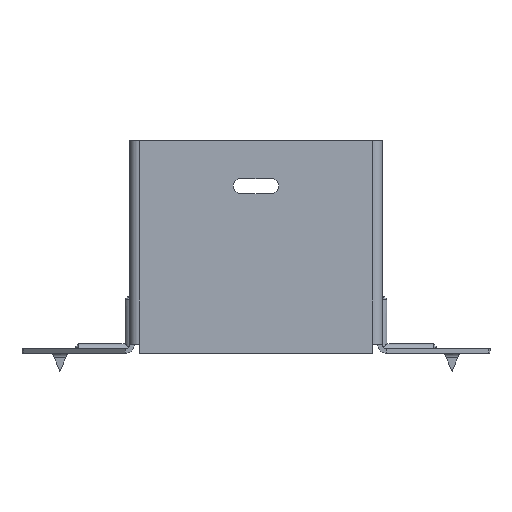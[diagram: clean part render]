
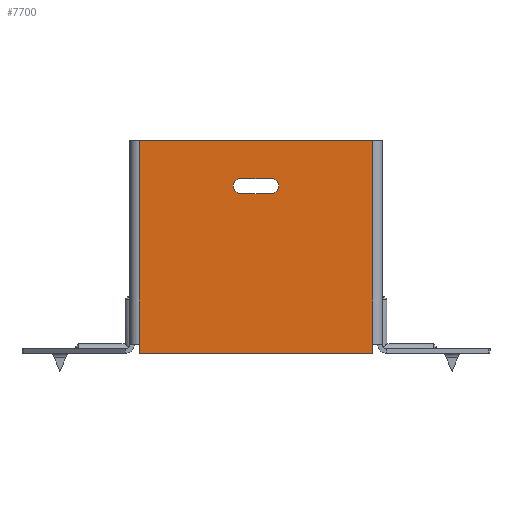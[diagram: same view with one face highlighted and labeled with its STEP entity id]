
A CAD part, front view. The second image highlights one B-rep face of the part: STEP entity #7700.
In plain terms, the highlighted planar face has unit normal (0, -1, 0).
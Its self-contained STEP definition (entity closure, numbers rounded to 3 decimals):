
#164 = CARTESIAN_POINT ( 'NONE',  ( 38.5, 0., -67. ) ) ;
#474 = AXIS2_PLACEMENT_3D ( 'NONE', #9347, #7338, #9395 ) ;
#503 = VECTOR ( 'NONE', #11735, 1000. ) ;
#679 = DIRECTION ( 'NONE',  ( 0., 0., 1. ) ) ;
#837 = VERTEX_POINT ( 'NONE', #4716 ) ;
#1063 = VERTEX_POINT ( 'NONE', #164 ) ;
#1389 = CARTESIAN_POINT ( 'NONE',  ( -38.5, 0., 0. ) ) ;
#1441 = FACE_OUTER_BOUND ( 'NONE', #4041, .T. ) ;
#1606 = LINE ( 'NONE', #7204, #8456 ) ;
#1619 = CARTESIAN_POINT ( 'NONE',  ( 38.5, 0., -70. ) ) ;
#1640 = VECTOR ( 'NONE', #1731, 1000. ) ;
#1731 = DIRECTION ( 'NONE',  ( 0., 0., -1. ) ) ;
#2017 = DIRECTION ( 'NONE',  ( 0., 0., -1. ) ) ;
#2109 = VERTEX_POINT ( 'NONE', #10915 ) ;
#2426 = DIRECTION ( 'NONE',  ( 0., 0., 1. ) ) ;
#2474 = CARTESIAN_POINT ( 'NONE',  ( -40., 0., 0. ) ) ;
#2738 = CARTESIAN_POINT ( 'NONE',  ( 38.5, 0., 0. ) ) ;
#2800 = CARTESIAN_POINT ( 'NONE',  ( 0., 0., 0. ) ) ;
#2891 = EDGE_CURVE ( 'NONE', #2109, #5733, #7853, .T. ) ;
#2902 = EDGE_CURVE ( 'NONE', #6639, #4940, #12967, .T. ) ;
#3086 = ORIENTED_EDGE ( 'NONE', *, *, #5403, .T. ) ;
#3413 = ORIENTED_EDGE ( 'NONE', *, *, #9475, .T. ) ;
#3447 = DIRECTION ( 'NONE',  ( 0., 1., 0. ) ) ;
#3527 = LINE ( 'NONE', #10897, #10387 ) ;
#4041 = EDGE_LOOP ( 'NONE', ( #5992, #3413, #11366, #12289, #5726, #8482 ) ) ;
#4084 = DIRECTION ( 'NONE',  ( 0., 0., 1. ) ) ;
#4421 = VECTOR ( 'NONE', #9502, 1000. ) ;
#4456 = VERTEX_POINT ( 'NONE', #1619 ) ;
#4612 = VERTEX_POINT ( 'NONE', #2738 ) ;
#4653 = CARTESIAN_POINT ( 'NONE',  ( -38.5, 0., 0. ) ) ;
#4716 = CARTESIAN_POINT ( 'NONE',  ( -38.5, 0., -70. ) ) ;
#4863 = CARTESIAN_POINT ( 'NONE',  ( -38.5, 0., 0. ) ) ;
#4940 = VERTEX_POINT ( 'NONE', #9493 ) ;
#4990 = DIRECTION ( 'NONE',  ( -1., 0., 0. ) ) ;
#5403 = EDGE_CURVE ( 'NONE', #11936, #12933, #11278, .T. ) ;
#5449 = ORIENTED_EDGE ( 'NONE', *, *, #12475, .T. ) ;
#5726 = ORIENTED_EDGE ( 'NONE', *, *, #6948, .T. ) ;
#5733 = VERTEX_POINT ( 'NONE', #6988 ) ;
#5992 = ORIENTED_EDGE ( 'NONE', *, *, #2902, .T. ) ;
#6085 = EDGE_LOOP ( 'NONE', ( #5449, #3086, #12952, #6865 ) ) ;
#6387 = AXIS2_PLACEMENT_3D ( 'NONE', #2800, #10184, #4084 ) ;
#6465 = CARTESIAN_POINT ( 'NONE',  ( 5., 0., -15. ) ) ;
#6500 = LINE ( 'NONE', #4863, #8564 ) ;
#6639 = VERTEX_POINT ( 'NONE', #4653 ) ;
#6767 = LINE ( 'NONE', #8012, #8687 ) ;
#6865 = ORIENTED_EDGE ( 'NONE', *, *, #2891, .T. ) ;
#6948 = EDGE_CURVE ( 'NONE', #1063, #4612, #9600, .T. ) ;
#6988 = CARTESIAN_POINT ( 'NONE',  ( 5., 0., -17.5 ) ) ;
#7068 = PLANE ( 'NONE',  #6387 ) ;
#7204 = CARTESIAN_POINT ( 'NONE',  ( -40., 0., -70. ) ) ;
#7338 = DIRECTION ( 'NONE',  ( 0., 1., 0. ) ) ;
#7341 = EDGE_CURVE ( 'NONE', #4456, #1063, #11194, .T. ) ;
#7373 = EDGE_CURVE ( 'NONE', #12933, #2109, #3527, .T. ) ;
#7605 = AXIS2_PLACEMENT_3D ( 'NONE', #6465, #3447, #2426 ) ;
#7700 = ADVANCED_FACE ( 'NONE', ( #12305, #1441 ), #7068, .F. ) ;
#7748 = EDGE_CURVE ( 'NONE', #4456, #837, #1606, .T. ) ;
#7749 = LINE ( 'NONE', #2474, #4421 ) ;
#7853 = CIRCLE ( 'NONE', #7605, 2.5 ) ;
#8012 = CARTESIAN_POINT ( 'NONE',  ( -5., 0., -17.5 ) ) ;
#8456 = VECTOR ( 'NONE', #13228, 1000. ) ;
#8482 = ORIENTED_EDGE ( 'NONE', *, *, #10864, .F. ) ;
#8564 = VECTOR ( 'NONE', #2017, 1000. ) ;
#8678 = CARTESIAN_POINT ( 'NONE',  ( 38.5, 0., -70. ) ) ;
#8687 = VECTOR ( 'NONE', #4990, 1000. ) ;
#8927 = CARTESIAN_POINT ( 'NONE',  ( 38.5, 0., -70. ) ) ;
#9347 = CARTESIAN_POINT ( 'NONE',  ( -5., 0., -15. ) ) ;
#9395 = DIRECTION ( 'NONE',  ( 0., 0., 1. ) ) ;
#9475 = EDGE_CURVE ( 'NONE', #4940, #837, #6500, .T. ) ;
#9493 = CARTESIAN_POINT ( 'NONE',  ( -38.5, 0., -67. ) ) ;
#9502 = DIRECTION ( 'NONE',  ( 1., 0., 0. ) ) ;
#9600 = LINE ( 'NONE', #8678, #503 ) ;
#10184 = DIRECTION ( 'NONE',  ( 0., 1., 0. ) ) ;
#10387 = VECTOR ( 'NONE', #10984, 1000. ) ;
#10864 = EDGE_CURVE ( 'NONE', #6639, #4612, #7749, .T. ) ;
#10897 = CARTESIAN_POINT ( 'NONE',  ( -5., 0., -12.5 ) ) ;
#10915 = CARTESIAN_POINT ( 'NONE',  ( 5., 0., -12.5 ) ) ;
#10984 = DIRECTION ( 'NONE',  ( 1., 0., 0. ) ) ;
#11194 = LINE ( 'NONE', #8927, #13089 ) ;
#11278 = CIRCLE ( 'NONE', #474, 2.5 ) ;
#11366 = ORIENTED_EDGE ( 'NONE', *, *, #7748, .F. ) ;
#11735 = DIRECTION ( 'NONE',  ( 0., 0., 1. ) ) ;
#11936 = VERTEX_POINT ( 'NONE', #12643 ) ;
#12289 = ORIENTED_EDGE ( 'NONE', *, *, #7341, .T. ) ;
#12305 = FACE_BOUND ( 'NONE', #6085, .T. ) ;
#12475 = EDGE_CURVE ( 'NONE', #5733, #11936, #6767, .T. ) ;
#12643 = CARTESIAN_POINT ( 'NONE',  ( -5., 0., -17.5 ) ) ;
#12933 = VERTEX_POINT ( 'NONE', #13072 ) ;
#12952 = ORIENTED_EDGE ( 'NONE', *, *, #7373, .T. ) ;
#12967 = LINE ( 'NONE', #1389, #1640 ) ;
#13072 = CARTESIAN_POINT ( 'NONE',  ( -5., 0., -12.5 ) ) ;
#13089 = VECTOR ( 'NONE', #679, 1000. ) ;
#13228 = DIRECTION ( 'NONE',  ( -1., 0., 0. ) ) ;
